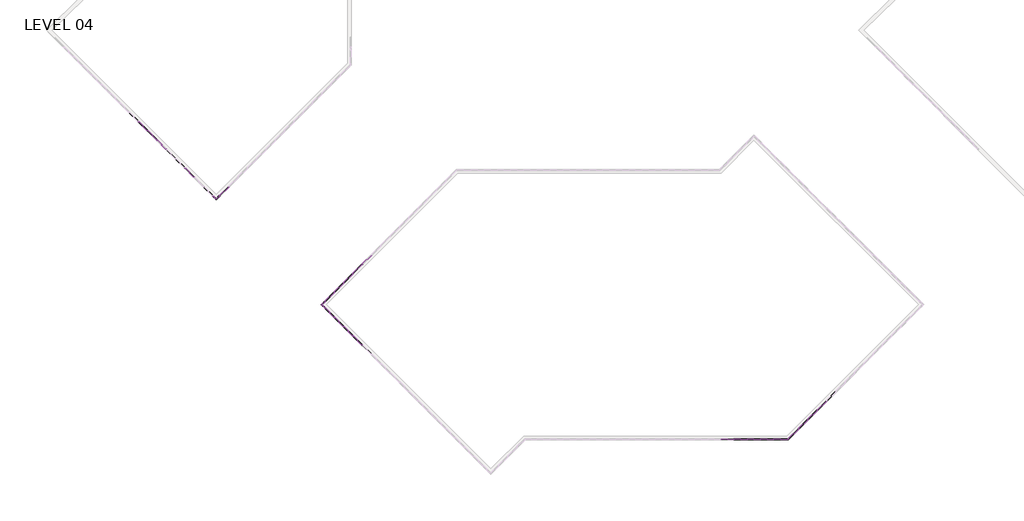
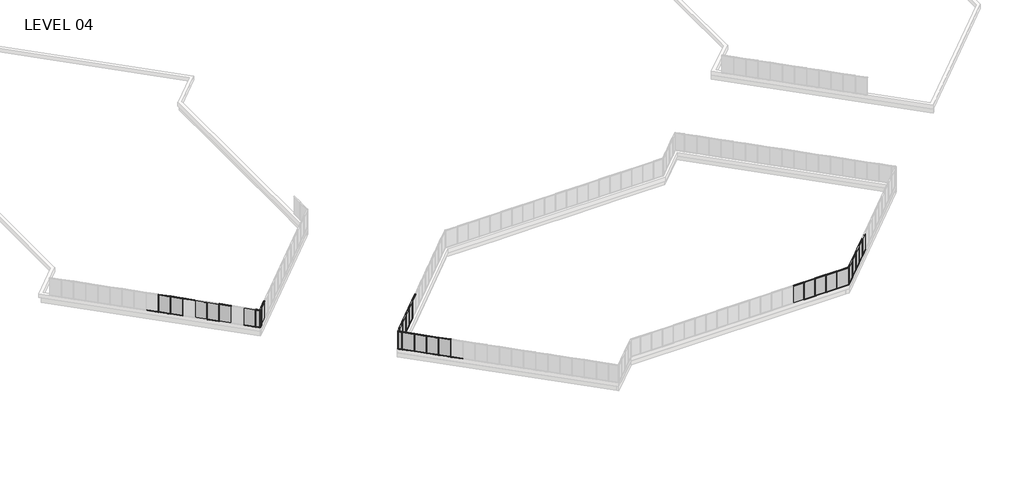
# One storey, part 2 of 17: 84 members, 29 plates.
"""IFC4 building model written with IfcOpenShell, lengths in millimetres."""

from ifc_helpers import new_model, si_unit, origin, place, context, project, spatial, transform, mapped, element, save
from components import member_5247f267, member_e44af9ab, member_800970d4, member_1bd862b2, member_7ca0f77f, member_25b26a38, member_ed9c17d6, plate_67294edd, plate_bbcbcabf, plate_3fb62afd, plate_6d527a83, plate_e0fd5134, plate_62af1d3c, plate_048e4634

model = new_model("IFC4")

# Units and contexts
model_context = context("Model", 3, world=origin())
ifc_project = project(units=[si_unit("LENGTHUNIT", "METRE", prefix="MILLI")], contexts=[model_context])

# Site, building, storey
site = spatial("IfcSite", under=ifc_project)
building = spatial("IfcBuilding", under=site)
storey = spatial("IfcBuildingStorey", under=building, Name="LEVEL 04", Elevation=12052.3)

# Members
placement = place(None, origin())
member_shape = member_5247f267(model_context)
element("IfcMember", 1, ObjectType="Rectangular Mullion : 2\" x 4.5\" rectangular", at=placement, inside=storey, context=model_context, shape_type="MappedRepresentation", body=[
    mapped(member_shape, transform((44329.35, -5092.0171279, 12052.3), x_axis=(0.0, 0.0, -1.0), y_axis=(0.0, -1.0, 0.0), z_axis=(-1.0, 0.0, 0.0))),
])
element("IfcMember", 2, ObjectType="Rectangular Mullion : 2\" x 4.5\" rectangular", at=placement, inside=storey, context=model_context, shape_type="MappedRepresentation", body=[
    mapped(member_shape, transform((45853.35, -5092.0171279, 12052.3), x_axis=(0.0, 0.0, -1.0), y_axis=(0.0, -1.0, 0.0), z_axis=(-1.0, 0.0, 0.0))),
])
element("IfcMember", 3, ObjectType="Rectangular Mullion : 2\" x 4.5\" rectangular", at=placement, inside=storey, context=model_context, shape_type="MappedRepresentation", body=[
    mapped(member_shape, transform((42805.35, -5092.0171279, 12052.3), x_axis=(0.0, 0.0, -1.0), y_axis=(0.0, -1.0, 0.0), z_axis=(-1.0, 0.0, 0.0))),
])
element("IfcMember", 4, ObjectType="Rectangular Mullion : 2\" x 4.5\" rectangular", at=placement, inside=storey, context=model_context, shape_type="MappedRepresentation", body=[
    mapped(member_shape, transform((50254.2406419, -3879.4326216, 12052.3), x_axis=(0.0, 0.0, -1.0), y_axis=(0.7071067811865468, -0.7071067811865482, 0.0), z_axis=(-0.7071067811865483, -0.7071067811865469, 0.0))),
])
element("IfcMember", 5, ObjectType="Rectangular Mullion : 2\" x 4.5\" rectangular", at=placement, inside=storey, context=model_context, shape_type="MappedRepresentation", body=[
    mapped(member_shape, transform((51331.8713765, -2801.801887, 12052.3), x_axis=(0.0, 0.0, -1.0), y_axis=(0.7071067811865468, -0.7071067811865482, 0.0), z_axis=(-0.7071067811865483, -0.7071067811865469, 0.0))),
])
element("IfcMember", 6, ObjectType="Rectangular Mullion : 2\" x 4.5\" rectangular", at=placement, inside=storey, context=model_context, shape_type="MappedRepresentation", body=[
    mapped(member_shape, transform((52409.502111, -1724.1711525, 12052.3), x_axis=(0.0, 0.0, -1.0), y_axis=(0.7071067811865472, -0.7071067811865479, 0.0), z_axis=(-0.7071067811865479, -0.7071067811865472, 0.0))),
])
element("IfcMember", 7, ObjectType="Rectangular Mullion : 2\" x 4.5\" rectangular", at=placement, inside=storey, context=model_context, shape_type="MappedRepresentation", body=[
    mapped(member_shape, transform((53487.1328455, -646.540418, 12052.3), x_axis=(0.0, 0.0, -1.0), y_axis=(0.7071067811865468, -0.7071067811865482, 0.0), z_axis=(-0.7071067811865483, -0.7071067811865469, 0.0))),
])
element("IfcMember", 8, ObjectType="Rectangular Mullion : 2\" x 4.5\" rectangular", at=placement, inside=storey, context=model_context, shape_type="MappedRepresentation", body=[
    mapped(member_shape, transform((-1378.4693146, 14091.4196932, 12052.3), x_axis=(0.0, 0.0, -1.0), y_axis=(-0.7071067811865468, 0.7071067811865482, 0.0), z_axis=(0.7071067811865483, 0.7071067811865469, 0.0))),
])
element("IfcMember", 9, ObjectType="Rectangular Mullion : 2\" x 4.5\" rectangular", at=placement, inside=storey, context=model_context, shape_type="MappedRepresentation", body=[
    mapped(member_shape, transform((-300.8459809, 15169.0430268, 12052.3), x_axis=(0.0, 0.0, -1.0), y_axis=(-0.7071067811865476, 0.7071067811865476, 0.0), z_axis=(0.7071067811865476, 0.7071067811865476, 0.0))),
])
element("IfcMember", 10, ObjectType="Rectangular Mullion : 2\" x 4.5\" rectangular", at=placement, inside=storey, context=model_context, shape_type="MappedRepresentation", body=[
    mapped(member_shape, transform((-2456.1000491, 13013.7889586, 12052.3), x_axis=(0.0, 0.0, -1.0), y_axis=(-0.7071067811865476, 0.7071067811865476, 0.0), z_axis=(0.7071067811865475, 0.7071067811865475, 0.0))),
])
element("IfcMember", 11, ObjectType="Rectangular Mullion : 2\" x 4.5\" rectangular", at=placement, inside=storey, context=model_context, shape_type="MappedRepresentation", body=[
    mapped(member_shape, transform((-3533.7307836, 11936.1582241, 12052.3), x_axis=(0.0, 0.0, -1.0), y_axis=(-0.7071067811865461, 0.7071067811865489, 0.0), z_axis=(0.7071067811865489, 0.7071067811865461, 0.0))),
])
element("IfcMember", 12, ObjectType="Rectangular Mullion : 2\" x 4.5\" rectangular", at=placement, inside=storey, context=model_context, shape_type="MappedRepresentation", body=[
    mapped(member_shape, transform((-2420.1790246, 7938.4057611, 12052.3), x_axis=(0.0, 0.0, -1.0), y_axis=(-0.7071067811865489, -0.7071067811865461, 0.0), z_axis=(-0.7071067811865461, 0.7071067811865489, 0.0))),
])
element("IfcMember", 13, ObjectType="Rectangular Mullion : 2\" x 4.5\" rectangular", at=placement, inside=storey, context=model_context, shape_type="MappedRepresentation", body=[
    mapped(member_shape, transform((-1342.5482901, 6860.7750266, 12052.3), x_axis=(0.0, 0.0, -1.0), y_axis=(-0.7071067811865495, -0.7071067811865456, 0.0), z_axis=(-0.7071067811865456, 0.7071067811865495, 0.0))),
])
element("IfcMember", 14, ObjectType="Rectangular Mullion : 2\" x 4.5\" rectangular", at=placement, inside=storey, context=model_context, shape_type="MappedRepresentation", body=[
    mapped(member_shape, transform((-3497.8097592, 9016.0364956, 12052.3), x_axis=(0.0, 0.0, -1.0), y_axis=(-0.7071067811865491, -0.7071067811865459, 0.0), z_axis=(-0.7071067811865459, 0.7071067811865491, 0.0))),
])
element("IfcMember", 15, ObjectType="Rectangular Mullion : 2\" x 4.5\" rectangular", at=placement, inside=storey, context=model_context, shape_type="MappedRepresentation", body=[
    mapped(member_shape, transform((-4575.4404937, 10093.6672302, 12052.3), x_axis=(0.0, 0.0, -1.0), y_axis=(-0.7071067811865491, -0.707106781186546, 0.0), z_axis=(-0.707106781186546, 0.7071067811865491, 0.0))),
])
element("IfcMember", 16, ObjectType="Rectangular Mullion : 2\" x 4.5\" rectangular", at=placement, inside=storey, context=model_context, shape_type="MappedRepresentation", body=[
    mapped(member_shape, transform((-264.9354228, 5783.1621593, 12052.3), x_axis=(0.0, 0.0, -1.0), y_axis=(-0.7071067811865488, -0.7071067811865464, 0.0), z_axis=(-0.7071067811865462, 0.7071067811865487, 0.0))),
])
element("IfcMember", 17, ObjectType="Rectangular Mullion : 2\" x 4.5\" rectangular", at=placement, inside=storey, context=model_context, shape_type="MappedRepresentation", body=[
    mapped(member_shape, transform((44278.55, -5092.0171279, 14643.1), x_axis=(0.0, 0.0, 1.0), y_axis=(0.0, -1.0, 0.0), z_axis=(1.0, 0.0, 0.0))),
])
element("IfcMember", 18, ObjectType="Rectangular Mullion : 2\" x 4.5\" rectangular", at=placement, inside=storey, context=model_context, shape_type="MappedRepresentation", body=[
    mapped(member_shape, transform((45802.55, -5092.0171279, 14643.1), x_axis=(0.0, 0.0, 1.0), y_axis=(0.0, -1.0, 0.0), z_axis=(1.0, 0.0, 0.0))),
])
element("IfcMember", 19, ObjectType="Rectangular Mullion : 2\" x 4.5\" rectangular", at=placement, inside=storey, context=model_context, shape_type="MappedRepresentation", body=[
    mapped(member_shape, transform((42754.55, -5092.0171279, 14643.1), x_axis=(0.0, 0.0, 1.0), y_axis=(0.0, -1.0, 0.0), z_axis=(1.0, 0.0, 0.0))),
])
element("IfcMember", 20, ObjectType="Rectangular Mullion : 2\" x 4.5\" rectangular", at=placement, inside=storey, context=model_context, shape_type="MappedRepresentation", body=[
    mapped(member_shape, transform((47326.55, -5092.0171279, 14643.1), x_axis=(0.0, 0.0, 1.0), y_axis=(0.0, -1.0, 0.0), z_axis=(1.0, 0.0, 0.0))),
])
element("IfcMember", 21, ObjectType="Rectangular Mullion : 2\" x 4.5\" rectangular", at=placement, inside=storey, context=model_context, shape_type="MappedRepresentation", body=[
    mapped(member_shape, transform((51295.950352, -2837.7229115, 14643.1), x_axis=(0.0, 0.0, 1.0), y_axis=(0.7071067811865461, -0.7071067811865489, 0.0), z_axis=(0.7071067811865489, 0.7071067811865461, 0.0))),
])
element("IfcMember", 22, ObjectType="Rectangular Mullion : 2\" x 4.5\" rectangular", at=placement, inside=storey, context=model_context, shape_type="MappedRepresentation", body=[
    mapped(member_shape, transform((52373.5810865, -1760.092177, 14643.1), x_axis=(0.0, 0.0, 1.0), y_axis=(0.7071067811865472, -0.7071067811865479, 0.0), z_axis=(0.7071067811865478, 0.7071067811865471, 0.0))),
])
element("IfcMember", 23, ObjectType="Rectangular Mullion : 2\" x 4.5\" rectangular", at=placement, inside=storey, context=model_context, shape_type="MappedRepresentation", body=[
    mapped(member_shape, transform((53451.211821, -682.4614425, 14643.1), x_axis=(0.0, 0.0, 1.0), y_axis=(0.7071067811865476, -0.7071067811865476, 0.0), z_axis=(0.7071067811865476, 0.7071067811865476, 0.0))),
])
element("IfcMember", 24, ObjectType="Rectangular Mullion : 2\" x 4.5\" rectangular", at=placement, inside=storey, context=model_context, shape_type="MappedRepresentation", body=[
    mapped(member_shape, transform((-1342.5482901, 14127.3407176, 14643.1), x_axis=(0.0, 0.0, 1.0), y_axis=(-0.7071067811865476, 0.7071067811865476, 0.0), z_axis=(-0.7071067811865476, -0.7071067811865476, 0.0))),
])
element("IfcMember", 25, ObjectType="Rectangular Mullion : 2\" x 4.5\" rectangular", at=placement, inside=storey, context=model_context, shape_type="MappedRepresentation", body=[
    mapped(member_shape, transform((-264.9249564, 15204.9640513, 14643.1), x_axis=(0.0, 0.0, 1.0), y_axis=(-0.7071067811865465, 0.7071067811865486, 0.0), z_axis=(-0.7071067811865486, -0.7071067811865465, 0.0))),
])
element("IfcMember", 26, ObjectType="Rectangular Mullion : 2\" x 4.5\" rectangular", at=placement, inside=storey, context=model_context, shape_type="MappedRepresentation", body=[
    mapped(member_shape, transform((-2420.1790246, 13049.7099831, 14643.1), x_axis=(0.0, 0.0, 1.0), y_axis=(-0.7071067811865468, 0.7071067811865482, 0.0), z_axis=(-0.7071067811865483, -0.7071067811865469, 0.0))),
])
element("IfcMember", 27, ObjectType="Rectangular Mullion : 2\" x 4.5\" rectangular", at=placement, inside=storey, context=model_context, shape_type="MappedRepresentation", body=[
    mapped(member_shape, transform((-3497.8097592, 11972.0792486, 14643.1), x_axis=(0.0, 0.0, 1.0), y_axis=(-0.7071067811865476, 0.7071067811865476, 0.0), z_axis=(-0.7071067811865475, -0.7071067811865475, 0.0))),
])
element("IfcMember", 28, ObjectType="Rectangular Mullion : 2\" x 4.5\" rectangular", at=placement, inside=storey, context=model_context, shape_type="MappedRepresentation", body=[
    mapped(member_shape, transform((-4575.4404937, 10894.4485141, 14643.1), x_axis=(0.0, 0.0, 1.0), y_axis=(-0.7071067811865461, 0.7071067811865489, 0.0), z_axis=(-0.7071067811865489, -0.7071067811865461, 0.0))),
])
element("IfcMember", 29, ObjectType="Rectangular Mullion : 2\" x 4.5\" rectangular", at=placement, inside=storey, context=model_context, shape_type="MappedRepresentation", body=[
    mapped(member_shape, transform((-2456.1000491, 7974.3267856, 14643.1), x_axis=(0.0, 0.0, 1.0), y_axis=(-0.7071067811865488, -0.7071067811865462, 0.0), z_axis=(0.7071067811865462, -0.7071067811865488, 0.0))),
])
element("IfcMember", 30, ObjectType="Rectangular Mullion : 2\" x 4.5\" rectangular", at=placement, inside=storey, context=model_context, shape_type="MappedRepresentation", body=[
    mapped(member_shape, transform((-1378.4693146, 6896.6960511, 14643.1), x_axis=(0.0, 0.0, 1.0), y_axis=(-0.7071067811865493, -0.7071067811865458, 0.0), z_axis=(0.7071067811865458, -0.7071067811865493, 0.0))),
])
element("IfcMember", 31, ObjectType="Rectangular Mullion : 2\" x 4.5\" rectangular", at=placement, inside=storey, context=model_context, shape_type="MappedRepresentation", body=[
    mapped(member_shape, transform((-3533.7307836, 9051.9575201, 14643.1), x_axis=(0.0, 0.0, 1.0), y_axis=(-0.7071067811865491, -0.707106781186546, 0.0), z_axis=(0.707106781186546, -0.7071067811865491, 0.0))),
])
element("IfcMember", 32, ObjectType="Rectangular Mullion : 2\" x 4.5\" rectangular", at=placement, inside=storey, context=model_context, shape_type="MappedRepresentation", body=[
    mapped(member_shape, transform((-300.8564473, 5819.0831838, 14643.1), x_axis=(0.0, 0.0, 1.0), y_axis=(-0.7071067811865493, -0.7071067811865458, 0.0), z_axis=(0.7071067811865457, -0.7071067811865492, 0.0))),
])
member_2_shape = member_e44af9ab(model_context)
element("IfcMember", 33, ObjectType="Rectangular Mullion : 2\" x 4.5\" rectangular", at=placement, inside=storey, context=model_context, shape_type="MappedRepresentation", body=[
    mapped(member_2_shape, transform((44303.95, -5092.0171279, 12052.3), x_axis=(1.0, 0.0, 0.0), y_axis=(0.0, -1.0, 0.0), z_axis=(0.0, 0.0, -1.0))),
])
element("IfcMember", 34, ObjectType="Rectangular Mullion : 2\" x 4.5\" rectangular", at=placement, inside=storey, context=model_context, shape_type="MappedRepresentation", body=[
    mapped(member_2_shape, transform((45827.95, -5092.0171279, 12052.3), x_axis=(1.0, 0.0, 0.0), y_axis=(0.0, -1.0, 0.0), z_axis=(0.0, 0.0, -1.0))),
])
element("IfcMember", 35, ObjectType="Rectangular Mullion : 2\" x 4.5\" rectangular", at=placement, inside=storey, context=model_context, shape_type="MappedRepresentation", body=[
    mapped(member_2_shape, transform((42779.95, -5092.0171279, 12052.3), x_axis=(1.0, 0.0, 0.0), y_axis=(0.0, -1.0, 0.0), z_axis=(0.0, 0.0, -1.0))),
])
element("IfcMember", 36, ObjectType="Rectangular Mullion : 2\" x 4.5\" rectangular", at=placement, inside=storey, context=model_context, shape_type="MappedRepresentation", body=[
    mapped(member_2_shape, transform((47351.95, -5092.0171279, 12052.3), x_axis=(1.0, 0.0, 0.0), y_axis=(0.0, -1.0, 0.0), z_axis=(0.0, 0.0, -1.0))),
])
element("IfcMember", 37, ObjectType="Rectangular Mullion : 2\" x 4.5\" rectangular", at=placement, inside=storey, context=model_context, shape_type="MappedRepresentation", body=[
    mapped(member_2_shape, transform((50236.2801297, -3897.3931338, 12052.3), x_axis=(0.7071067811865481, 0.7071067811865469, 0.0), y_axis=(0.7071067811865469, -0.7071067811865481, 0.0), z_axis=(0.0, 0.0, -1.0))),
])
element("IfcMember", 38, ObjectType="Rectangular Mullion : 2\" x 4.5\" rectangular", at=placement, inside=storey, context=model_context, shape_type="MappedRepresentation", body=[
    mapped(member_2_shape, transform((51313.9108642, -2819.7623993, 12052.3), x_axis=(0.7071067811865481, 0.7071067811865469, 0.0), y_axis=(0.7071067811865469, -0.7071067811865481, 0.0), z_axis=(0.0, 0.0, -1.0))),
])
element("IfcMember", 39, ObjectType="Rectangular Mullion : 2\" x 4.5\" rectangular", at=placement, inside=storey, context=model_context, shape_type="MappedRepresentation", body=[
    mapped(member_2_shape, transform((52391.5415988, -1742.1316648, 12052.3), x_axis=(0.7071067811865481, 0.7071067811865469, 0.0), y_axis=(0.7071067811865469, -0.7071067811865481, 0.0), z_axis=(0.0, 0.0, -1.0))),
])
element("IfcMember", 40, ObjectType="Rectangular Mullion : 2\" x 4.5\" rectangular", at=placement, inside=storey, context=model_context, shape_type="MappedRepresentation", body=[
    mapped(member_2_shape, transform((53469.1723333, -664.5009302, 12052.3), x_axis=(0.7071067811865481, 0.7071067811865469, 0.0), y_axis=(0.7071067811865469, -0.7071067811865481, 0.0), z_axis=(0.0, 0.0, -1.0))),
])
element("IfcMember", 41, ObjectType="Rectangular Mullion : 2\" x 4.5\" rectangular", at=placement, inside=storey, context=model_context, shape_type="MappedRepresentation", body=[
    mapped(member_2_shape, transform((-1360.5088023, 14109.3802054, 12052.3), x_axis=(-0.7071067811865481, -0.7071067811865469, 0.0), y_axis=(-0.7071067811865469, 0.7071067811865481, 0.0), z_axis=(0.0, 0.0, -1.0))),
])
element("IfcMember", 42, ObjectType="Rectangular Mullion : 2\" x 4.5\" rectangular", at=placement, inside=storey, context=model_context, shape_type="MappedRepresentation", body=[
    mapped(member_2_shape, transform((-282.8854687, 15187.0035391, 12052.3), x_axis=(-0.7071067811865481, -0.7071067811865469, 0.0), y_axis=(-0.7071067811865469, 0.7071067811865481, 0.0), z_axis=(0.0, 0.0, -1.0))),
])
element("IfcMember", 43, ObjectType="Rectangular Mullion : 2\" x 4.5\" rectangular", at=placement, inside=storey, context=model_context, shape_type="MappedRepresentation", body=[
    mapped(member_2_shape, transform((-2438.1395369, 13031.7494709, 12052.3), x_axis=(-0.7071067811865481, -0.7071067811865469, 0.0), y_axis=(-0.7071067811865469, 0.7071067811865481, 0.0), z_axis=(0.0, 0.0, -1.0))),
])
element("IfcMember", 44, ObjectType="Rectangular Mullion : 2\" x 4.5\" rectangular", at=placement, inside=storey, context=model_context, shape_type="MappedRepresentation", body=[
    mapped(member_2_shape, transform((-3515.7702714, 11954.1187363, 12052.3), x_axis=(-0.7071067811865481, -0.7071067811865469, 0.0), y_axis=(-0.7071067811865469, 0.7071067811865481, 0.0), z_axis=(0.0, 0.0, -1.0))),
])
element("IfcMember", 45, ObjectType="Rectangular Mullion : 2\" x 4.5\" rectangular", at=placement, inside=storey, context=model_context, shape_type="MappedRepresentation", body=[
    mapped(member_2_shape, transform((-4593.4010059, 10876.4880018, 12052.3), x_axis=(-0.7071067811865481, -0.7071067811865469, 0.0), y_axis=(-0.7071067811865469, 0.7071067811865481, 0.0), z_axis=(0.0, 0.0, -1.0))),
])
element("IfcMember", 46, ObjectType="Rectangular Mullion : 2\" x 4.5\" rectangular", at=placement, inside=storey, context=model_context, shape_type="MappedRepresentation", body=[
    mapped(member_2_shape, transform((-2438.1395369, 7956.3662734, 12052.3), x_axis=(0.7071067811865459, -0.7071067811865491, 0.0), y_axis=(-0.7071067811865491, -0.7071067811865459, 0.0), z_axis=(0.0, 0.0, -1.0))),
])
element("IfcMember", 47, ObjectType="Rectangular Mullion : 2\" x 4.5\" rectangular", at=placement, inside=storey, context=model_context, shape_type="MappedRepresentation", body=[
    mapped(member_2_shape, transform((-1360.5088023, 6878.7355388, 12052.3), x_axis=(0.7071067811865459, -0.7071067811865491, 0.0), y_axis=(-0.7071067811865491, -0.7071067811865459, 0.0), z_axis=(0.0, 0.0, -1.0))),
])
element("IfcMember", 48, ObjectType="Rectangular Mullion : 2\" x 4.5\" rectangular", at=placement, inside=storey, context=model_context, shape_type="MappedRepresentation", body=[
    mapped(member_2_shape, transform((-3515.7702714, 9033.9970079, 12052.3), x_axis=(0.7071067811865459, -0.7071067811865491, 0.0), y_axis=(-0.7071067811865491, -0.7071067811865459, 0.0), z_axis=(0.0, 0.0, -1.0))),
])
element("IfcMember", 49, ObjectType="Rectangular Mullion : 2\" x 4.5\" rectangular", at=placement, inside=storey, context=model_context, shape_type="MappedRepresentation", body=[
    mapped(member_2_shape, transform((-4593.4010059, 10111.6277424, 12052.3), x_axis=(0.7071067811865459, -0.7071067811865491, 0.0), y_axis=(-0.7071067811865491, -0.7071067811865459, 0.0), z_axis=(0.0, 0.0, -1.0))),
])
element("IfcMember", 50, ObjectType="Rectangular Mullion : 2\" x 4.5\" rectangular", at=placement, inside=storey, context=model_context, shape_type="MappedRepresentation", body=[
    mapped(member_2_shape, transform((-282.8959351, 5801.1226716, 12052.3), x_axis=(0.7071067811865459, -0.7071067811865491, 0.0), y_axis=(-0.7071067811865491, -0.7071067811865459, 0.0), z_axis=(0.0, 0.0, -1.0))),
])
member_3_shape = member_800970d4(model_context)
element("IfcMember", 51, ObjectType="Rectangular Mullion : 2\" x 4.5\" rectangular", at=placement, inside=storey, context=model_context, shape_type="MappedRepresentation", body=[
    mapped(member_3_shape, transform((49041.6561356, -5092.0171279, 12052.3), x_axis=(1.0, 0.0, 0.0), y_axis=(0.0, -1.0, 0.0), z_axis=(0.0, 0.0, -1.0))),
])
element("IfcMember", 52, ObjectType="Rectangular Mullion : 2\" x 4.5\" rectangular", at=placement, inside=storey, context=model_context, shape_type="MappedRepresentation", body=[
    mapped(member_3_shape, transform((-4975.8311356, 10494.0578721, 12052.3), x_axis=(-0.7071067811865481, -0.7071067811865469, 0.0), y_axis=(-0.7071067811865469, 0.7071067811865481, 0.0), z_axis=(0.0, 0.0, -1.0))),
])
element("IfcMember", 53, ObjectType="Rectangular Mullion : 2\" x 4.5\" rectangular", at=placement, inside=storey, context=model_context, shape_type="MappedRepresentation", body=[
    mapped(member_3_shape, transform((49041.6561356, -5092.0171279, 14643.1), x_axis=(-0.7071067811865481, -0.7071067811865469, 0.0), y_axis=(0.7071067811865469, -0.7071067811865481, 0.0), z_axis=(0.0, 0.0, 1.0))),
])
element("IfcMember", 54, ObjectType="Rectangular Mullion : 2\" x 4.5\" rectangular", at=placement, inside=storey, context=model_context, shape_type="MappedRepresentation", body=[
    mapped(member_3_shape, transform((-4975.8311356, 10494.0578721, 14643.1), x_axis=(-0.7071067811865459, 0.7071067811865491, 0.0), y_axis=(-0.7071067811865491, -0.7071067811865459, 0.0), z_axis=(0.0, 0.0, 1.0))),
])
member_4_shape = member_1bd862b2(model_context)
element("IfcMember", 55, ObjectType="Rectangular Mullion : 2\" x 4.5\" rectangular", at=placement, inside=storey, context=model_context, shape_type="MappedRepresentation", body=[
    mapped(member_4_shape, transform((48990.8561356, -5092.0171279, 14643.1), x_axis=(0.0, 0.0, 1.0), y_axis=(0.0, -1.0, 0.0), z_axis=(1.0, 0.0, 0.0))),
])
element("IfcMember", 56, ObjectType="Rectangular Mullion : 2\" x 4.5\" rectangular", at=placement, inside=storey, context=model_context, shape_type="MappedRepresentation", body=[
    mapped(member_4_shape, transform((47377.35, -5092.0171279, 12052.3), x_axis=(0.0, 0.0, -1.0), y_axis=(0.0, -1.0, 0.0), z_axis=(-1.0, 0.0, 0.0))),
])
member_5_shape = member_7ca0f77f(model_context)
element("IfcMember", 57, ObjectType="Rectangular Mullion : 2\" x 4.5\" rectangular", at=placement, inside=storey, context=model_context, shape_type="MappedRepresentation", body=[
    mapped(member_5_shape, transform((50218.3196175, -3915.3536461, 14643.1), x_axis=(0.0, 0.0, 1.0), y_axis=(0.7071067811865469, -0.7071067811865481, 0.0), z_axis=(0.7071067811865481, 0.7071067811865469, 0.0))),
])
element("IfcMember", 58, ObjectType="Rectangular Mullion : 2\" x 4.5\" rectangular", at=placement, inside=storey, context=model_context, shape_type="MappedRepresentation", body=[
    mapped(member_5_shape, transform((49077.5771601, -5056.0961034, 12052.3), x_axis=(0.0, 0.0, -1.0), y_axis=(0.7071067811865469, -0.7071067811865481, 0.0), z_axis=(-0.7071067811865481, -0.7071067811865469, 0.0))),
])
member_6_shape = member_25b26a38(model_context)
element("IfcMember", 59, ObjectType="Rectangular Mullion : 2\" x 4.5\" rectangular", at=placement, inside=storey, context=model_context, shape_type="MappedRepresentation", body=[
    mapped(member_6_shape, transform((-4611.3615182, 10858.5274896, 12052.3), x_axis=(0.0, 0.0, -1.0), y_axis=(-0.7071067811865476, 0.7071067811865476, 0.0), z_axis=(0.7071067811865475, 0.7071067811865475, 0.0))),
])
element("IfcMember", 60, ObjectType="Rectangular Mullion : 2\" x 4.5\" rectangular", at=placement, inside=storey, context=model_context, shape_type="MappedRepresentation", body=[
    mapped(member_6_shape, transform((-4939.9101111, 10458.1368476, 12052.3), x_axis=(0.0, 0.0, -1.0), y_axis=(-0.7071067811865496, -0.7071067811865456, 0.0), z_axis=(-0.7071067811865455, 0.7071067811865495, 0.0))),
])
element("IfcMember", 61, ObjectType="Rectangular Mullion : 2\" x 4.5\" rectangular", at=placement, inside=storey, context=model_context, shape_type="MappedRepresentation", body=[
    mapped(member_6_shape, transform((-4939.9101111, 10529.9788966, 14643.1), x_axis=(0.0, 0.0, 1.0), y_axis=(-0.7071067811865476, 0.7071067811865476, 0.0), z_axis=(-0.7071067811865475, -0.7071067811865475, 0.0))),
])
element("IfcMember", 62, ObjectType="Rectangular Mullion : 2\" x 4.5\" rectangular", at=placement, inside=storey, context=model_context, shape_type="MappedRepresentation", body=[
    mapped(member_6_shape, transform((-4611.3615182, 10129.5882547, 14643.1), x_axis=(0.0, 0.0, 1.0), y_axis=(-0.707106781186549, -0.707106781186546, 0.0), z_axis=(0.707106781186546, -0.707106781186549, 0.0))),
])
element("IfcMember", 63, ObjectType="Rectangular Mullion : 2\" x 4.5\" rectangular", at=placement, inside=storey, context=model_context, shape_type="MappedRepresentation", body=[
    mapped(member_shape, transform((-16797.5690745, 23116.5770948, 14643.1), x_axis=(0.0, 0.0, 1.0), y_axis=(-0.7071067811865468, 0.7071067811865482, 0.0), z_axis=(-0.7071067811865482, -0.7071067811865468, 0.0))),
])
element("IfcMember", 64, ObjectType="Rectangular Mullion : 2\" x 4.5\" rectangular", at=placement, inside=storey, context=model_context, shape_type="MappedRepresentation", body=[
    mapped(member_shape, transform((-20795.3215374, 26313.5482739, 14643.1), x_axis=(0.0, 0.0, 1.0), y_axis=(0.7071067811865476, 0.7071067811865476, 0.0), z_axis=(-0.7071067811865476, 0.7071067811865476, 0.0))),
])
element("IfcMember", 65, ObjectType="Rectangular Mullion : 2\" x 4.5\" rectangular", at=placement, inside=storey, context=model_context, shape_type="MappedRepresentation", body=[
    mapped(member_shape, transform((-24028.142272, 29546.3690085, 14643.1), x_axis=(0.0, 0.0, 1.0), y_axis=(0.707106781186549, 0.7071067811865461, 0.0), z_axis=(-0.7071067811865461, 0.707106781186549, 0.0))),
])
element("IfcMember", 66, ObjectType="Rectangular Mullion : 2\" x 4.5\" rectangular", at=placement, inside=storey, context=model_context, shape_type="MappedRepresentation", body=[
    mapped(member_shape, transform((-25105.737272, 30623.9640085, 14643.1), x_axis=(0.0, 0.0, 1.0), y_axis=(0.7071067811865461, 0.707106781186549, 0.0), z_axis=(-0.707106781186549, 0.7071067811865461, 0.0))),
])
element("IfcMember", 67, ObjectType="Rectangular Mullion : 2\" x 4.5\" rectangular", at=placement, inside=storey, context=model_context, shape_type="MappedRepresentation", body=[
    mapped(member_shape, transform((-26183.332272, 31701.5590085, 14643.1), x_axis=(0.0, 0.0, 1.0), y_axis=(0.7071067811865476, 0.7071067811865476, 0.0), z_axis=(-0.7071067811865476, 0.7071067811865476, 0.0))),
])
element("IfcMember", 68, ObjectType="Rectangular Mullion : 2\" x 4.5\" rectangular", at=placement, inside=storey, context=model_context, shape_type="MappedRepresentation", body=[
    mapped(member_shape, transform((-20831.2425619, 26349.4692984, 12052.3), x_axis=(0.0, 0.0, -1.0), y_axis=(0.7071067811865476, 0.7071067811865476, 0.0), z_axis=(0.7071067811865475, -0.7071067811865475, 0.0))),
])
element("IfcMember", 69, ObjectType="Rectangular Mullion : 2\" x 4.5\" rectangular", at=placement, inside=storey, context=model_context, shape_type="MappedRepresentation", body=[
    mapped(member_shape, transform((-24064.0632965, 29582.2900329, 12052.3), x_axis=(0.0, 0.0, -1.0), y_axis=(0.7071067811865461, 0.707106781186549, 0.0), z_axis=(0.707106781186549, -0.7071067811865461, 0.0))),
])
element("IfcMember", 70, ObjectType="Rectangular Mullion : 2\" x 4.5\" rectangular", at=placement, inside=storey, context=model_context, shape_type="MappedRepresentation", body=[
    mapped(member_shape, transform((-25141.6582965, 30659.8850329, 12052.3), x_axis=(0.0, 0.0, -1.0), y_axis=(0.7071067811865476, 0.7071067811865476, 0.0), z_axis=(0.7071067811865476, -0.7071067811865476, 0.0))),
])
element("IfcMember", 71, ObjectType="Rectangular Mullion : 2\" x 4.5\" rectangular", at=placement, inside=storey, context=model_context, shape_type="MappedRepresentation", body=[
    mapped(member_shape, transform((-17598.3503583, 23116.5770948, 12052.3), x_axis=(0.0, 0.0, -1.0), y_axis=(0.7071067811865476, 0.7071067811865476, 0.0), z_axis=(0.7071067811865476, -0.7071067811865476, 0.0))),
])
element("IfcMember", 72, ObjectType="Rectangular Mullion : 2\" x 4.5\" rectangular", at=placement, inside=storey, context=model_context, shape_type="MappedRepresentation", body=[
    mapped(member_2_shape, transform((-16815.5295867, 23098.6165826, 12052.3), x_axis=(-0.7071067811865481, -0.7071067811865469, 0.0), y_axis=(-0.7071067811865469, 0.7071067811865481, 0.0), z_axis=(0.0, 0.0, -1.0))),
])
element("IfcMember", 73, ObjectType="Rectangular Mullion : 2\" x 4.5\" rectangular", at=placement, inside=storey, context=model_context, shape_type="MappedRepresentation", body=[
    mapped(member_2_shape, transform((-20813.2820497, 26331.5087862, 12052.3), x_axis=(-0.7071067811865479, 0.7071067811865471, 0.0), y_axis=(0.7071067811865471, 0.7071067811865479, 0.0), z_axis=(0.0, 0.0, -1.0))),
])
element("IfcMember", 74, ObjectType="Rectangular Mullion : 2\" x 4.5\" rectangular", at=placement, inside=storey, context=model_context, shape_type="MappedRepresentation", body=[
    mapped(member_2_shape, transform((-24046.1027842, 29564.3295207, 12052.3), x_axis=(-0.7071067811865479, 0.7071067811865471, 0.0), y_axis=(0.7071067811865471, 0.7071067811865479, 0.0), z_axis=(0.0, 0.0, -1.0))),
])
element("IfcMember", 75, ObjectType="Rectangular Mullion : 2\" x 4.5\" rectangular", at=placement, inside=storey, context=model_context, shape_type="MappedRepresentation", body=[
    mapped(member_2_shape, transform((-25123.6977842, 30641.9245207, 12052.3), x_axis=(-0.7071067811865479, 0.7071067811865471, 0.0), y_axis=(0.7071067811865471, 0.7071067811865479, 0.0), z_axis=(0.0, 0.0, -1.0))),
])
element("IfcMember", 76, ObjectType="Rectangular Mullion : 2\" x 4.5\" rectangular", at=placement, inside=storey, context=model_context, shape_type="MappedRepresentation", body=[
    mapped(member_2_shape, transform((-26201.2927842, 31719.5195207, 12052.3), x_axis=(-0.7071067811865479, 0.7071067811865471, 0.0), y_axis=(0.7071067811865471, 0.7071067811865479, 0.0), z_axis=(0.0, 0.0, -1.0))),
])
element("IfcMember", 77, ObjectType="Rectangular Mullion : 2\" x 4.5\" rectangular", at=placement, inside=storey, context=model_context, shape_type="MappedRepresentation", body=[
    mapped(member_2_shape, transform((-17580.3898461, 23098.6165826, 12052.3), x_axis=(-0.7071067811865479, 0.7071067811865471, 0.0), y_axis=(0.7071067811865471, 0.7071067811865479, 0.0), z_axis=(0.0, 0.0, -1.0))),
])
element("IfcMember", 78, ObjectType="Rectangular Mullion : 2\" x 4.5\" rectangular", at=placement, inside=storey, context=model_context, shape_type="MappedRepresentation", body=[
    mapped(member_3_shape, transform((-17197.9597164, 22716.1864529, 12052.3), x_axis=(-0.7071067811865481, -0.7071067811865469, 0.0), y_axis=(-0.7071067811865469, 0.7071067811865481, 0.0), z_axis=(0.0, 0.0, -1.0))),
])
element("IfcMember", 79, ObjectType="Rectangular Mullion : 2\" x 4.5\" rectangular", at=placement, inside=storey, context=model_context, shape_type="MappedRepresentation", body=[
    mapped(member_3_shape, transform((-17197.9597164, 22716.1864529, 14643.1), x_axis=(0.7071067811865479, -0.7071067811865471, 0.0), y_axis=(0.7071067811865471, 0.7071067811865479, 0.0), z_axis=(0.0, 0.0, 1.0))),
])
element("IfcMember", 80, ObjectType="Rectangular Mullion : 2\" x 4.5\" rectangular", at=placement, inside=storey, context=model_context, shape_type="MappedRepresentation", body=[
    mapped(member_6_shape, transform((-17162.0386919, 22752.1074774, 14643.1), x_axis=(0.0, 0.0, 1.0), y_axis=(-0.7071067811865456, 0.7071067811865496, 0.0), z_axis=(-0.7071067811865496, -0.7071067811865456, 0.0))),
])
element("IfcMember", 81, ObjectType="Rectangular Mullion : 2\" x 4.5\" rectangular", at=placement, inside=storey, context=model_context, shape_type="MappedRepresentation", body=[
    mapped(member_6_shape, transform((-17562.4293339, 23080.6560704, 14643.1), x_axis=(0.0, 0.0, 1.0), y_axis=(0.7071067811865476, 0.7071067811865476, 0.0), z_axis=(-0.7071067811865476, 0.7071067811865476, 0.0))),
])
element("IfcMember", 82, ObjectType="Rectangular Mullion : 2\" x 4.5\" rectangular", at=placement, inside=storey, context=model_context, shape_type="MappedRepresentation", body=[
    mapped(member_6_shape, transform((-16833.4900989, 23080.6560704, 12052.3), x_axis=(0.0, 0.0, -1.0), y_axis=(-0.7071067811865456, 0.7071067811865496, 0.0), z_axis=(0.7071067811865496, 0.7071067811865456, 0.0))),
])
element("IfcMember", 83, ObjectType="Rectangular Mullion : 2\" x 4.5\" rectangular", at=placement, inside=storey, context=model_context, shape_type="MappedRepresentation", body=[
    mapped(member_6_shape, transform((-17233.8807409, 22752.1074774, 12052.3), x_axis=(0.0, 0.0, -1.0), y_axis=(0.7071067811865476, 0.7071067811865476, 0.0), z_axis=(0.7071067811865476, -0.7071067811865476, 0.0))),
])
member_7_shape = member_ed9c17d6(model_context)
element("IfcMember", 84, ObjectType="Rectangular Mullion : 2\" x 4.5\" rectangular", at=placement, inside=storey, context=model_context, shape_type="MappedRepresentation", body=[
    mapped(member_7_shape, transform((-26219.2532965, 31737.4800329, 12052.3), x_axis=(0.0, 0.0, -1.0), y_axis=(0.7071067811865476, 0.7071067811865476, 0.0), z_axis=(0.7071067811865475, -0.7071067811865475, 0.0))),
])

# Plates
plate_shape = plate_67294edd(model_context)
element("IfcPlate", 85, ObjectType="System Panel : 1/4\" Glass", at=placement, inside=storey, context=model_context, shape_type="MappedRepresentation", body=[
    mapped(plate_shape, transform((45065.95, -5092.0171279, 12103.1), x_axis=(1.0, 0.0, 0.0), y_axis=(0.0, 1.0, 0.0), z_axis=(0.0, 0.0, 1.0))),
])
element("IfcPlate", 86, ObjectType="System Panel : 1/4\" Glass", at=placement, inside=storey, context=model_context, shape_type="MappedRepresentation", body=[
    mapped(plate_shape, transform((46589.95, -5092.0171279, 12103.1), x_axis=(1.0, 0.0, 0.0), y_axis=(0.0, 1.0, 0.0), z_axis=(0.0, 0.0, 1.0))),
])
element("IfcPlate", 87, ObjectType="System Panel : 1/4\" Glass", at=placement, inside=storey, context=model_context, shape_type="MappedRepresentation", body=[
    mapped(plate_shape, transform((42017.95, -5092.0171279, 12103.1), x_axis=(1.0, 0.0, 0.0), y_axis=(0.0, 1.0, 0.0), z_axis=(0.0, 0.0, 1.0))),
])
element("IfcPlate", 88, ObjectType="System Panel : 1/4\" Glass", at=placement, inside=storey, context=model_context, shape_type="MappedRepresentation", body=[
    mapped(plate_shape, transform((43541.95, -5092.0171279, 12103.1), x_axis=(1.0, 0.0, 0.0), y_axis=(0.0, 1.0, 0.0), z_axis=(0.0, 0.0, 1.0))),
])
element("IfcPlate", 89, ObjectType="System Panel : 1/4\" Glass", at=placement, inside=storey, context=model_context, shape_type="MappedRepresentation", body=[
    mapped(plate_shape, transform((50775.095497, -3358.5777665, 12103.1), x_axis=(0.7071067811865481, 0.7071067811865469, 0.0), y_axis=(-0.7071067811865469, 0.7071067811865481, 0.0), z_axis=(0.0, 0.0, 1.0))),
])
element("IfcPlate", 90, ObjectType="System Panel : 1/4\" Glass", at=placement, inside=storey, context=model_context, shape_type="MappedRepresentation", body=[
    mapped(plate_shape, transform((51852.7262315, -2280.947032, 12103.1), x_axis=(0.7071067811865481, 0.7071067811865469, 0.0), y_axis=(-0.7071067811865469, 0.7071067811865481, 0.0), z_axis=(0.0, 0.0, 1.0))),
])
element("IfcPlate", 91, ObjectType="System Panel : 1/4\" Glass", at=placement, inside=storey, context=model_context, shape_type="MappedRepresentation", body=[
    mapped(plate_shape, transform((52930.356966, -1203.3162975, 12103.1), x_axis=(0.7071067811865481, 0.7071067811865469, 0.0), y_axis=(-0.7071067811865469, 0.7071067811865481, 0.0), z_axis=(0.0, 0.0, 1.0))),
])
element("IfcPlate", 92, ObjectType="System Panel : 1/4\" Glass", at=placement, inside=storey, context=model_context, shape_type="MappedRepresentation", body=[
    mapped(plate_shape, transform((54007.9877005, -125.685563, 12103.1), x_axis=(0.7071067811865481, 0.7071067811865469, 0.0), y_axis=(-0.7071067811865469, 0.7071067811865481, 0.0), z_axis=(0.0, 0.0, 1.0))),
])
element("IfcPlate", 93, ObjectType="System Panel : 1/4\" Glass", at=placement, inside=storey, context=model_context, shape_type="MappedRepresentation", body=[
    mapped(plate_shape, transform((-1899.3241696, 13570.5648381, 12103.1), x_axis=(-0.7071067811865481, -0.7071067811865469, 0.0), y_axis=(0.7071067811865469, -0.7071067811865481, 0.0), z_axis=(0.0, 0.0, 1.0))),
])
element("IfcPlate", 94, ObjectType="System Panel : 1/4\" Glass", at=placement, inside=storey, context=model_context, shape_type="MappedRepresentation", body=[
    mapped(plate_shape, transform((-2976.9549041, 12492.9341036, 12103.1), x_axis=(-0.7071067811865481, -0.7071067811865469, 0.0), y_axis=(0.7071067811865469, -0.7071067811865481, 0.0), z_axis=(0.0, 0.0, 1.0))),
])
element("IfcPlate", 95, ObjectType="System Panel : 1/4\" Glass", at=placement, inside=storey, context=model_context, shape_type="MappedRepresentation", body=[
    mapped(plate_shape, transform((-4054.5856387, 11415.3033691, 12103.1), x_axis=(-0.7071067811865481, -0.7071067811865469, 0.0), y_axis=(0.7071067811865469, -0.7071067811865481, 0.0), z_axis=(0.0, 0.0, 1.0))),
])
element("IfcPlate", 96, ObjectType="System Panel : 1/4\" Glass", at=placement, inside=storey, context=model_context, shape_type="MappedRepresentation", body=[
    mapped(plate_shape, transform((-1899.3241696, 7417.5509061, 12103.1), x_axis=(0.7071067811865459, -0.7071067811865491, 0.0), y_axis=(0.7071067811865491, 0.7071067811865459, 0.0), z_axis=(0.0, 0.0, 1.0))),
])
element("IfcPlate", 97, ObjectType="System Panel : 1/4\" Glass", at=placement, inside=storey, context=model_context, shape_type="MappedRepresentation", body=[
    mapped(plate_shape, transform((-2976.9549041, 8495.1816406, 12103.1), x_axis=(0.7071067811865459, -0.7071067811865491, 0.0), y_axis=(0.7071067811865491, 0.7071067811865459, 0.0), z_axis=(0.0, 0.0, 1.0))),
])
element("IfcPlate", 98, ObjectType="System Panel : 1/4\" Glass", at=placement, inside=storey, context=model_context, shape_type="MappedRepresentation", body=[
    mapped(plate_shape, transform((-4054.5856387, 9572.8123752, 12103.1), x_axis=(0.7071067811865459, -0.7071067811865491, 0.0), y_axis=(0.7071067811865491, 0.7071067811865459, 0.0), z_axis=(0.0, 0.0, 1.0))),
])
plate_2_shape = plate_bbcbcabf(model_context)
element("IfcPlate", 99, ObjectType="System Panel : 1/4\" Glass", at=placement, inside=storey, context=model_context, shape_type="MappedRepresentation", body=[
    mapped(plate_2_shape, transform((48184.1030678, -5092.0171279, 12103.1), x_axis=(1.0, 0.0, 0.0), y_axis=(0.0, 1.0, 0.0), z_axis=(0.0, 0.0, 1.0))),
])
plate_3_shape = plate_3fb62afd(model_context)
element("IfcPlate", 100, ObjectType="System Panel : 1/4\" Glass", at=placement, inside=storey, context=model_context, shape_type="MappedRepresentation", body=[
    mapped(plate_3_shape, transform((49647.9483888, -4485.7248747, 12103.1), x_axis=(0.7071067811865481, 0.7071067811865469, 0.0), y_axis=(-0.7071067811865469, 0.7071067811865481, 0.0), z_axis=(0.0, 0.0, 1.0))),
])
plate_4_shape = plate_6d527a83(model_context)
element("IfcPlate", 101, ObjectType="System Panel : 1/4\" Glass", at=placement, inside=storey, context=model_context, shape_type="MappedRepresentation", body=[
    mapped(plate_4_shape, transform((-4775.6358147, 10694.2531931, 12103.1), x_axis=(-0.7071067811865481, -0.7071067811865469, 0.0), y_axis=(0.7071067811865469, -0.7071067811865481, 0.0), z_axis=(0.0, 0.0, 1.0))),
])
element("IfcPlate", 102, ObjectType="System Panel : 1/4\" Glass", at=placement, inside=storey, context=model_context, shape_type="MappedRepresentation", body=[
    mapped(plate_4_shape, transform((-4775.6358147, 10293.8625511, 12103.1), x_axis=(0.7071067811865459, -0.7071067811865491, 0.0), y_axis=(0.7071067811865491, 0.7071067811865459, 0.0), z_axis=(0.0, 0.0, 1.0))),
])
plate_5_shape = plate_e0fd5134(model_context)
element("IfcPlate", 103, ObjectType="System Panel : 1/4\" Glass", at=placement, inside=storey, context=model_context, shape_type="MappedRepresentation", body=[
    mapped(plate_5_shape, transform((-821.6971355, 14648.1918722, 12103.1), x_axis=(-0.7071067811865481, -0.7071067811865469, 0.0), y_axis=(0.7071067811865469, -0.7071067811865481, 0.0), z_axis=(0.0, 0.0, 1.0))),
])
plate_6_shape = plate_62af1d3c(model_context)
element("IfcPlate", 104, ObjectType="System Panel : 1/4\" Glass", at=placement, inside=storey, context=model_context, shape_type="MappedRepresentation", body=[
    mapped(plate_6_shape, transform((-821.7023687, 6339.9291052, 12103.1), x_axis=(0.7071067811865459, -0.7071067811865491, 0.0), y_axis=(0.7071067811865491, 0.7071067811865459, 0.0), z_axis=(0.0, 0.0, 1.0))),
])
element("IfcPlate", 105, ObjectType="System Panel : 1/4\" Glass", at=placement, inside=storey, context=model_context, shape_type="MappedRepresentation", body=[
    mapped(plate_shape, transform((-16276.7142194, 23637.4319499, 12103.1), x_axis=(-0.7071067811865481, -0.7071067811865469, 0.0), y_axis=(0.7071067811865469, -0.7071067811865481, 0.0), z_axis=(0.0, 0.0, 1.0))),
])
element("IfcPlate", 106, ObjectType="System Panel : 1/4\" Glass", at=placement, inside=storey, context=model_context, shape_type="MappedRepresentation", body=[
    mapped(plate_shape, transform((-20274.4666824, 25792.6934189, 12103.1), x_axis=(-0.7071067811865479, 0.7071067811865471, 0.0), y_axis=(-0.7071067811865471, -0.7071067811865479, 0.0), z_axis=(0.0, 0.0, 1.0))),
])
element("IfcPlate", 107, ObjectType="System Panel : 1/4\" Glass", at=placement, inside=storey, context=model_context, shape_type="MappedRepresentation", body=[
    mapped(plate_shape, transform((-18119.2052134, 23637.4319499, 12103.1), x_axis=(-0.7071067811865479, 0.7071067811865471, 0.0), y_axis=(-0.7071067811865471, -0.7071067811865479, 0.0), z_axis=(0.0, 0.0, 1.0))),
])
plate_7_shape = plate_048e4634(model_context)
element("IfcPlate", 108, ObjectType="System Panel : 1/4\" Glass", at=placement, inside=storey, context=model_context, shape_type="MappedRepresentation", body=[
    mapped(plate_7_shape, transform((-24584.9002842, 30103.1270207, 12103.1), x_axis=(-0.7071067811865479, 0.7071067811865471, 0.0), y_axis=(-0.7071067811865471, -0.7071067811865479, 0.0), z_axis=(0.0, 0.0, 1.0))),
])
element("IfcPlate", 109, ObjectType="System Panel : 1/4\" Glass", at=placement, inside=storey, context=model_context, shape_type="MappedRepresentation", body=[
    mapped(plate_7_shape, transform((-25662.4952842, 31180.7220207, 12103.1), x_axis=(-0.7071067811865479, 0.7071067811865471, 0.0), y_axis=(-0.7071067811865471, -0.7071067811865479, 0.0), z_axis=(0.0, 0.0, 1.0))),
])
element("IfcPlate", 110, ObjectType="System Panel : 1/4\" Glass", at=placement, inside=storey, context=model_context, shape_type="MappedRepresentation", body=[
    mapped(plate_4_shape, transform((-16997.7643954, 22916.3817739, 12103.1), x_axis=(-0.7071067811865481, -0.7071067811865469, 0.0), y_axis=(0.7071067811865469, -0.7071067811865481, 0.0), z_axis=(0.0, 0.0, 1.0))),
])
element("IfcPlate", 111, ObjectType="System Panel : 1/4\" Glass", at=placement, inside=storey, context=model_context, shape_type="MappedRepresentation", body=[
    mapped(plate_4_shape, transform((-17398.1550374, 22916.3817739, 12103.1), x_axis=(-0.7071067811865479, 0.7071067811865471, 0.0), y_axis=(-0.7071067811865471, -0.7071067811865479, 0.0), z_axis=(0.0, 0.0, 1.0))),
])
element("IfcPlate", 112, ObjectType="System Panel : 1/4\" Glass", at=placement, inside=storey, context=model_context, shape_type="MappedRepresentation", body=[
    mapped(plate_6_shape, transform((-21352.0884833, 26870.3152198, 12103.1), x_axis=(-0.7071067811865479, 0.7071067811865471, 0.0), y_axis=(-0.7071067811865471, -0.7071067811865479, 0.0), z_axis=(0.0, 0.0, 1.0))),
])
element("IfcPlate", 113, ObjectType="System Panel : 1/4\" Glass", at=placement, inside=storey, context=model_context, shape_type="MappedRepresentation", body=[
    mapped(plate_6_shape, transform((-22429.7013506, 27947.9280871, 12103.1), x_axis=(-0.7071067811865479, 0.7071067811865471, 0.0), y_axis=(-0.7071067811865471, -0.7071067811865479, 0.0), z_axis=(0.0, 0.0, 1.0))),
])

save(model, "model.ifc")
